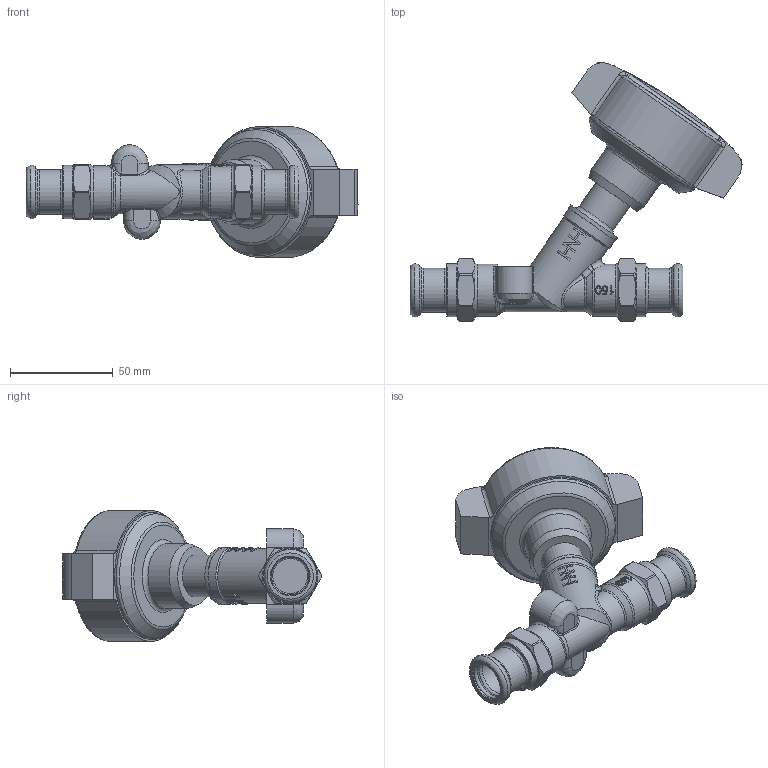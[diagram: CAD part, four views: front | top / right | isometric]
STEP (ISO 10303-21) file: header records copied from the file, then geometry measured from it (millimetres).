
FILE_DESCRIPTION((''),'2;1');
FILE_NAME('P:\Fastrack\53972_CRANE 3D\Push Fit\Fig_1432\Fig-1432-PF_18mm\Fig-1432-PF_18mm.stp','2011-08-24T16:47:32',('btaylor'),(''),'Autodesk Inventor 2008','Autodesk Inventor 2008','');
FILE_SCHEMA(('AUTOMOTIVE_DESIGN { 1 0 10303 214 1 1 1 1 }'));
Length unit declared in the file: millimetre
Products named in the file (1): Fig-1432-PF_18mm
Bounding box: 161.78 x 126.41 x 63.85 mm (x, y, z)
Volume: 207886.3 mm3; surface area: 37559.4 mm2
Topology: 1 solids, 3 shells, 659 faces, 1689 edges, 1094 vertices
Faces by surface type: plane 291, bspline 228, cylinder 94, cone 32, torus 14
Full cylindrical faces by diameter (mm): 18.2 x2, 18.8 x2, 20.3 x1, 21.45 x2, 25.4 x2, 26 x2, 26.4 x1, 27.5 x1, 28 x1, 31.5 x1, 61.958 x1
Entity records: 62863 total; most frequent: CARTESIAN_POINT 48590, ORIENTED_EDGE 3234, DIRECTION 2199, EDGE_CURVE 1617, VERTEX_POINT 1081, EDGE_LOOP 785, VECTOR 765, LINE 765
